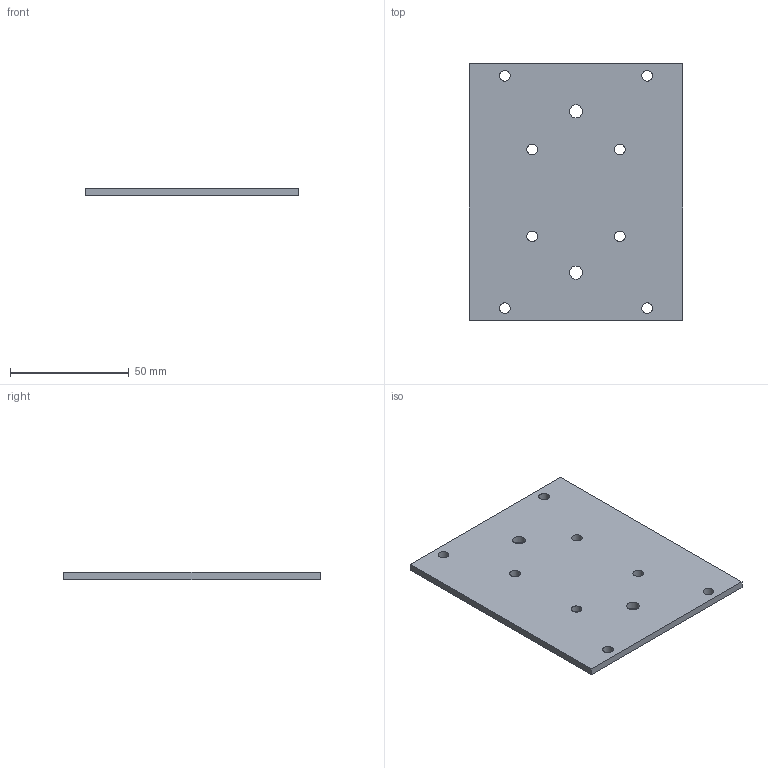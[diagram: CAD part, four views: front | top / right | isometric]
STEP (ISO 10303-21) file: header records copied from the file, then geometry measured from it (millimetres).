
FILE_DESCRIPTION(('Open CASCADE Model'),'2;1');
FILE_NAME('Open CASCADE Shape Model','2026-10-18T22:58:24',('Author'),( 'Open CASCADE'),'Open CASCADE STEP processor 7.9','Open CASCADE 7.9' ,'Unknown');
FILE_SCHEMA(('AUTOMOTIVE_DESIGN { 1 0 10303 214 1 1 1 1 }'));
Length unit declared in the file: millimetre
Products named in the file (1): Open CASCADE STEP translator 7.9 24
Bounding box: 90 x 108 x 3 mm (x, y, z)
Volume: 28635.7 mm3; surface area: 20721.5 mm2
Topology: 1 solids, 1 shells, 16 faces, 42 edges, 28 vertices
Faces by surface type: cylinder 10, plane 6
Full cylindrical faces by diameter (mm): 4.5 x8, 5.5 x2
Entity records: 1138 total; most frequent: CARTESIAN_POINT 243, DIRECTION 168, LINE 86, VECTOR 86, ORIENTED_EDGE 84, PCURVE 84, DEFINITIONAL_REPRESENTATION 84, EDGE_CURVE 42
